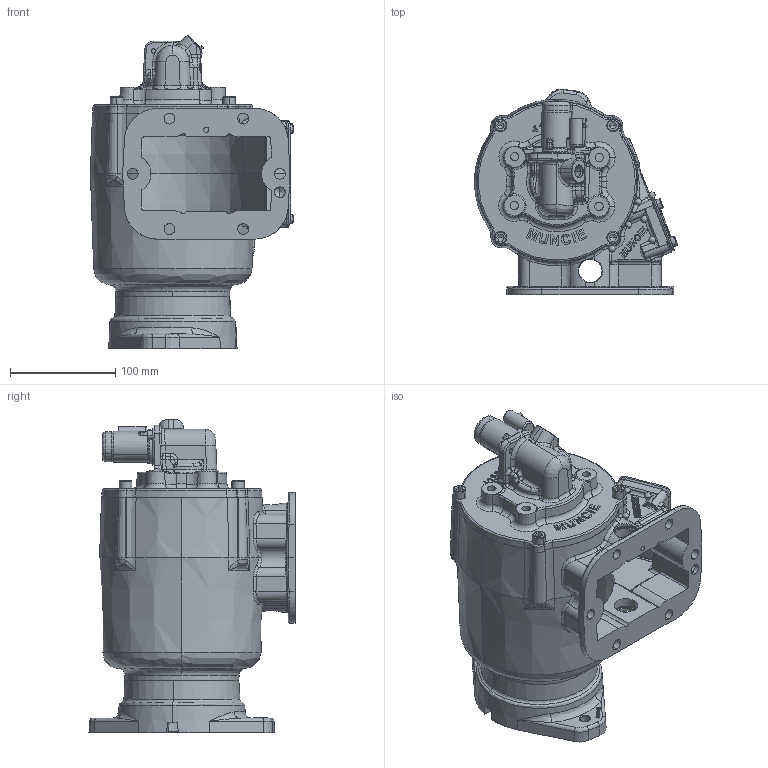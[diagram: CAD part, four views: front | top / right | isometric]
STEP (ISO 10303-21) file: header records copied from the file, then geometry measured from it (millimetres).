
FILE_DESCRIPTION (( 'STEP AP203' ), '1' );
FILE_NAME ('CS6B-XXXXX-S16X.STEP', '2023-06-05T13:33:45', ( '' ), ( '' ), 'SwSTEP 2.0', 'SolidWorks 2021', '' );
FILE_SCHEMA (( 'CONFIG_CONTROL_DESIGN' ));
Length unit declared in the file: inch
Products named in the file (13): 19T40859; 14T38981; 19T34462-1; 19T41118; 15T41597; 35T40860-1; 11T36124-1; 16T41119; 01T36713; 36MCL100-1; 19T35237; 12T34003; CS6B-XXXXX-S16X
Assembly tree (22 placements, depth 2):
  CS6B-XXXXX-S16X
    01T36713
    11T36124-1
    12T34003
    15T41597
    16T41119
    19T34462-1  x4
    19T35237  x4
    19T40859  x2
    35T40860-1
    36MCL100-1
    19T41118  x4
    14T38981
Bounding box: 192.82 x 195.42 x 297.84 mm (x, y, z)
Volume: 1416234.1 mm3; surface area: 429035.7 mm2
Topology: 23 solids, 23 shells, 4160 faces, 11069 edges, 7062 vertices
Faces by surface type: plane 1596, bspline 1521, cylinder 636, cone 321, torus 82, sphere 4
Entity records: 217564 total; most frequent: CARTESIAN_POINT 128905, ORIENTED_EDGE 20886, DIRECTION 13260, EDGE_CURVE 10443, VERTEX_POINT 6748, LINE 5188, VECTOR 5188, EDGE_LOOP 4297
